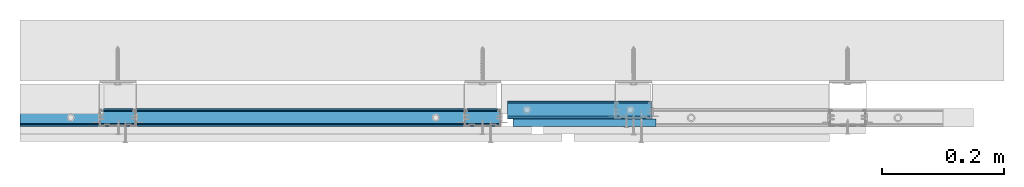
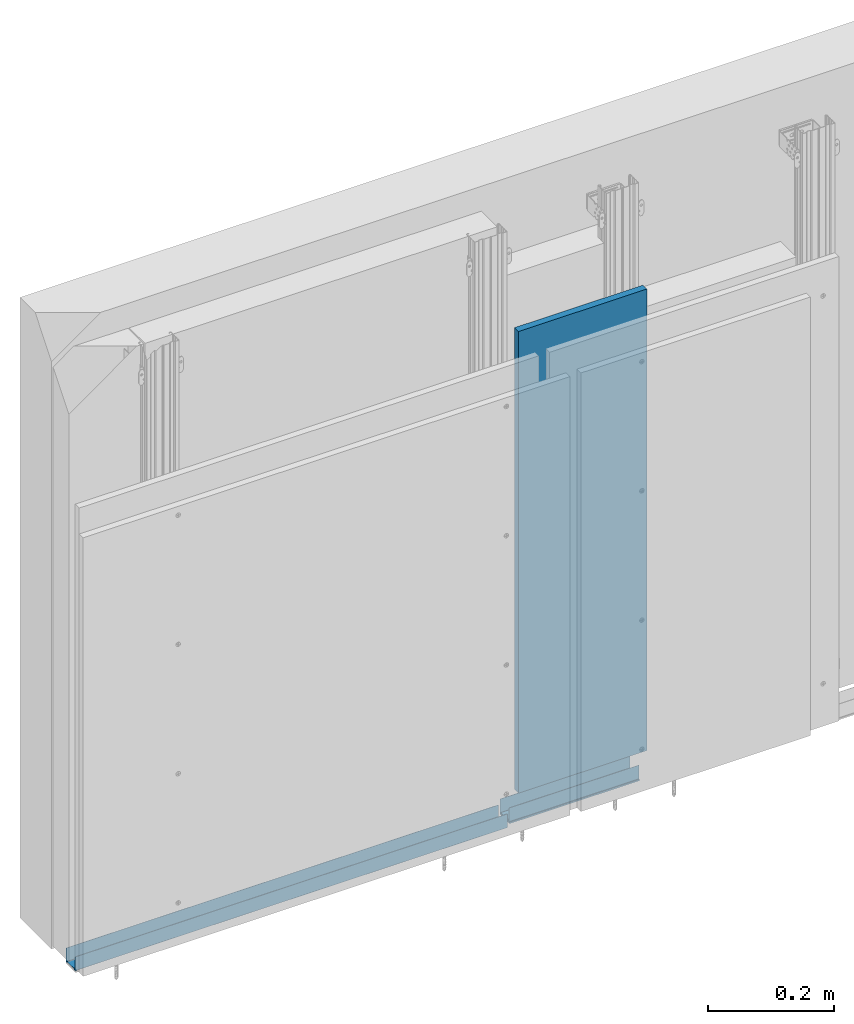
# One storey, part 4 of 48: 4 walls.
"""IFC2X3 building model written with IfcOpenShell, lengths in millimetres."""

from ifc_helpers import new_model, entity, si_unit, converted_unit, direction, frame, origin, origin_with_axes, place, context, project, spatial, faceted_brep, element, save


model = new_model("IFC2X3")

# Units and contexts
model_context = context("Model", 3, precision=1e-05, world=origin(), true_north=direction((0.0, 1.0, 0.0)))
ifc_project = project(units=[si_unit("LENGTHUNIT", "METRE", prefix="MILLI"), si_unit("AREAUNIT", "SQUARE_METRE"), si_unit("VOLUMEUNIT", "CUBIC_METRE"), converted_unit("PLANEANGLEUNIT", "DEGREE", entity("IfcPlaneAngleMeasure", 0.01745), si_unit("PLANEANGLEUNIT", "RADIAN"), dimensions=[0, 0, 0, 0, 0, 0, 0]), si_unit("SOLIDANGLEUNIT", "STERADIAN"), si_unit("MASSUNIT", "GRAM"), si_unit("TIMEUNIT", "SECOND"), si_unit("THERMODYNAMICTEMPERATUREUNIT", "DEGREE_CELSIUS"), si_unit("LUMINOUSINTENSITYUNIT", "LUMEN")], contexts=[model_context])

# Site, building, storey
site_placement = place(None, origin_with_axes())
site = spatial("IfcSite", under=ifc_project, at=site_placement, Name="Default Site", CompositionType="ELEMENT")
building_placement = place(site_placement, origin_with_axes())
building = spatial("IfcBuilding", under=site, at=building_placement, Name="Default Building", CompositionType="ELEMENT")
storey_placement = place(building_placement, origin_with_axes())
storey = spatial("IfcBuildingStorey", under=building, at=storey_placement, Name="Default Building Storey", CompositionType="ELEMENT", Elevation=0.0)

# Walls
wall_1_placement = place(storey_placement, frame((2393.64279698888, 1959.666056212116, 1059.999999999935), z_axis=(0.0, 0.0, 1.0), x_axis=(1.0, 6.389333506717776e-13, 0.0)))
element("IfcWall", 1, at=wall_1_placement, inside=storey, Name="Płyta gipsowo-kartonowa RIGIPS PRO (4PRO™)", context=model_context, shape_type="Brep", body=[
    faceted_brep([(542.2967056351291, 4.071580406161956e-10, -101.6096039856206), (542.2967056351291, -12.49999999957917, -101.6096039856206), (542.2967056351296, -12.49999999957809, -994.6141905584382), (542.2967056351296, 4.08240907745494e-10, -994.6141905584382), (777.2895112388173, -12.49999999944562, -101.6096039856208), (777.2895112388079, 5.26634380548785e-10, -101.6096039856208), (777.2895112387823, 5.244686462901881e-10, -994.6141905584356), (777.2895112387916, -12.49999999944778, -994.6141905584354)], [[[0, 1, 2, 3]], [[4, 5, 6, 7]], [[4, 1, 0, 5]], [[7, 2, 1, 4]], [[0, 3, 6, 5]], [[6, 3, 2, 7]]]),
])
wall_2_placement = place(storey_placement, frame((5932.525710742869, 3458.316404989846, -108.592020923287), z_axis=(-6.754789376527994e-14, -6.858158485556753e-13, 1.0), x_axis=(-1.0, -1.816065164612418e-15, -8.596431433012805e-14)))
element("IfcWall", 2, at=wall_2_placement, inside=storey, Name="Profil RIGIPS UD30 ULTRASTIL®", context=model_context, shape_type="Brep", body=[
    faceted_brep([(3006.162121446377, 1469.916032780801, 140.9749999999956), (3006.162121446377, 1469.366032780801, 140.9749999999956), (3006.162121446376, 1469.366032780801, 114.7749999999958), (3006.162121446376, 1469.375882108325, 114.6498524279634), (3006.162121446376, 1469.405187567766, 114.5277864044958), (3006.162121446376, 1469.453227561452, 114.4118076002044), (3006.162121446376, 1469.518819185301, 114.3047717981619), (3006.162121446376, 1469.600347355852, 114.2093145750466), (3006.162121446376, 1469.695804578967, 114.1277864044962), (3006.162121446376, 1469.80284038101, 114.0621947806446), (3006.162121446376, 1469.918819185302, 114.0141547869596), (3006.162121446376, 1470.04088520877, 113.9848493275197), (3006.162121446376, 1470.166032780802, 113.9749999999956), (3006.162121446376, 1472.016032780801, 113.9749999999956), (3006.162121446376, 1472.163550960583, 113.9887186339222), (3006.162121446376, 1472.3060097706, 114.0294040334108), (3006.162121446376, 1472.438523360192, 114.0956608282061), (3006.162121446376, 1472.55654696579, 114.1852166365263), (3006.162121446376, 1472.6560327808, 114.2949999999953), (3006.162121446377, 1473.676032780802, 115.6549999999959), (3006.162121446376, 1473.775518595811, 115.7647833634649), (3006.162121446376, 1473.893542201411, 115.8543391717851), (3006.162121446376, 1474.026055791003, 115.9205959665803), (3006.162121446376, 1474.16851460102, 115.961281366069), (3006.162121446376, 1474.316032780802, 115.9749999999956), (3006.162121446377, 1493.616032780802, 115.9749999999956), (3006.162121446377, 1493.763550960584, 115.961281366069), (3006.162121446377, 1493.906009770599, 115.9205959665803), (3006.162121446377, 1494.03852336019, 115.8543391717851), (3006.162121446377, 1494.15654696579, 115.7647833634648), (3006.162121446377, 1494.256032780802, 115.6549999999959), (3006.162121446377, 1495.276032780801, 114.2949999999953), (3006.162121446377, 1495.375518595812, 114.1852166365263), (3006.162121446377, 1495.493542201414, 114.0956608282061), (3006.162121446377, 1495.626055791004, 114.0294040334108), (3006.162121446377, 1495.76851460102, 113.9887186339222), (3006.162121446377, 1495.916032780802, 113.9749999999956), (3006.162121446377, 1497.766032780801, 113.9749999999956), (3006.162121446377, 1497.891180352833, 113.9848493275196), (3006.162121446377, 1498.013246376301, 114.0141547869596), (3006.162121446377, 1498.129225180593, 114.0621947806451), (3006.162121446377, 1498.236260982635, 114.1277864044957), (3006.162121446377, 1498.33171820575, 114.2093145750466), (3006.162121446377, 1498.413246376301, 114.304771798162), (3006.162121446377, 1498.478838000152, 114.411807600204), (3006.162121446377, 1498.526877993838, 114.5277864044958), (3006.162121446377, 1498.556183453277, 114.6498524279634), (3006.162121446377, 1498.566032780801, 114.7749999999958), (3006.162121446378, 1498.566032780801, 140.9749999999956), (3006.162121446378, 1498.0160327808, 140.9749999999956), (3006.162121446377, 1498.0160327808, 114.7749999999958), (3006.162121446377, 1498.012954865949, 114.7358913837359), (3006.162121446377, 1498.003796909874, 114.697745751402), (3006.162121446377, 1497.988784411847, 114.6615023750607), (3006.162121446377, 1497.968287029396, 114.6280536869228), (3006.162121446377, 1497.942809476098, 114.5982233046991), (3006.162121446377, 1497.912979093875, 114.5727457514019), (3006.162121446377, 1497.879530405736, 114.5522483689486), (3006.162121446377, 1497.843287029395, 114.5372358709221), (3006.162121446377, 1497.805141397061, 114.5280779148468), (3006.162121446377, 1497.766032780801, 114.5249999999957), (3006.162121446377, 1495.916032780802, 114.5249999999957), (3006.162121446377, 1495.86993334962, 114.529287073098), (3006.162121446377, 1495.82541497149, 114.5420012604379), (3006.162121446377, 1495.784004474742, 114.5627065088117), (3006.162121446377, 1495.747122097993, 114.5906926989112), (3006.162121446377, 1495.716032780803, 114.6249999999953), (3006.162121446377, 1494.696032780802, 115.9849999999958), (3006.162121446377, 1494.528150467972, 116.1702594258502), (3006.162121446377, 1494.32898563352, 116.3213848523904), (3006.162121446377, 1494.105368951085, 116.4331931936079), (3006.162121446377, 1493.864969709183, 116.5018498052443), (3006.162121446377, 1493.616032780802, 116.5249999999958), (3006.162121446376, 1474.316032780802, 116.5249999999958), (3006.162121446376, 1474.067095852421, 116.5018498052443), (3006.162121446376, 1473.826696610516, 116.4331931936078), (3006.162121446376, 1473.603079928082, 116.3213848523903), (3006.162121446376, 1473.403915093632, 116.1702594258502), (3006.162121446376, 1473.236032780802, 115.9849999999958), (3006.162121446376, 1472.216032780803, 114.6249999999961), (3006.162121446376, 1472.184943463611, 114.5906926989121), (3006.162121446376, 1472.14806108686, 114.5627065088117), (3006.162121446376, 1472.106650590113, 114.5420012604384), (3006.162121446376, 1472.062132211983, 114.529287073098), (3006.162121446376, 1472.016032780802, 114.5249999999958), (3006.162121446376, 1470.166032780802, 114.5249999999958), (3006.162121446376, 1470.126924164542, 114.5280779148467), (3006.162121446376, 1470.088778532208, 114.5372358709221), (3006.162121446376, 1470.052535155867, 114.5522483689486), (3006.162121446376, 1470.019086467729, 114.572745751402), (3006.162121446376, 1469.989256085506, 114.5982233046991), (3006.162121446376, 1469.963778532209, 114.6280536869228), (3006.162121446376, 1469.943281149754, 114.6615023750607), (3006.162121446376, 1469.928268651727, 114.697745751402), (3006.162121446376, 1469.919110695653, 114.7358913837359), (3006.162121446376, 1469.916032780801, 114.7749999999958), (2768.501210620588, 1469.366032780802, 114.7750000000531), (2768.501210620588, 1469.366032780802, 140.9750000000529), (2768.501210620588, 1469.916032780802, 140.9750000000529), (2768.501210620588, 1469.916032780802, 114.775000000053), (2768.501210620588, 1469.919110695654, 114.7358913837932), (2768.501210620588, 1469.928268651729, 114.6977457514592), (2768.501210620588, 1469.943281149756, 114.661502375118), (2768.501210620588, 1469.963778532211, 114.6280536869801), (2768.501210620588, 1469.989256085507, 114.5982233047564), (2768.501210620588, 1470.01908646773, 114.5727457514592), (2768.501210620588, 1470.052535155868, 114.5522483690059), (2768.501210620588, 1470.08877853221, 114.5372358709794), (2768.501210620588, 1470.126924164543, 114.5280779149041), (2768.501210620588, 1470.166032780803, 114.525000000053), (2768.501210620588, 1472.016032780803, 114.5250000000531), (2768.501210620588, 1472.062132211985, 114.5292870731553), (2768.501210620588, 1472.106650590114, 114.5420012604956), (2768.501210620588, 1472.148061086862, 114.562706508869), (2768.501210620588, 1472.184943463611, 114.5906926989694), (2768.501210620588, 1472.216032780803, 114.6250000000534), (2768.501210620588, 1473.236032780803, 115.9850000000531), (2768.501210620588, 1473.403915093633, 116.1702594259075), (2768.501210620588, 1473.603079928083, 116.3213848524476), (2768.501210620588, 1473.826696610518, 116.4331931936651), (2768.501210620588, 1474.067095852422, 116.5018498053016), (2768.501210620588, 1474.316032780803, 116.525000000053), (2768.501210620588, 1493.616032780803, 116.525000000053), (2768.501210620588, 1493.864969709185, 116.5018498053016), (2768.501210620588, 1494.105368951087, 116.4331931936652), (2768.501210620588, 1494.328985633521, 116.3213848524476), (2768.501210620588, 1494.528150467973, 116.1702594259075), (2768.501210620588, 1494.696032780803, 115.9850000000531), (2768.501210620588, 1495.716032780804, 114.6250000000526), (2768.501210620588, 1495.747122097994, 114.5906926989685), (2768.501210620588, 1495.784004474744, 114.562706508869), (2768.501210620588, 1495.825414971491, 114.5420012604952), (2768.501210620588, 1495.869933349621, 114.5292870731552), (2768.501210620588, 1495.916032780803, 114.5250000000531), (2768.501210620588, 1497.766032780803, 114.5250000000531), (2768.501210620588, 1497.805141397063, 114.5280779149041), (2768.501210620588, 1497.843287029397, 114.5372358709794), (2768.501210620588, 1497.879530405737, 114.5522483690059), (2768.501210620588, 1497.912979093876, 114.5727457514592), (2768.501210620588, 1497.942809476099, 114.5982233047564), (2768.501210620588, 1497.968287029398, 114.6280536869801), (2768.501210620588, 1497.988784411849, 114.661502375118), (2768.501210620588, 1498.003796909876, 114.6977457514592), (2768.501210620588, 1498.012954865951, 114.7358913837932), (2768.501210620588, 1498.016032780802, 114.7750000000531), (2768.501210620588, 1498.016032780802, 140.9750000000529), (2768.501210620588, 1498.566032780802, 140.9750000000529), (2768.501210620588, 1498.566032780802, 114.775000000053), (2768.501210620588, 1498.556183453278, 114.6498524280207), (2768.501210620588, 1498.526877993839, 114.5277864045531), (2768.501210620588, 1498.478838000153, 114.4118076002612), (2768.501210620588, 1498.413246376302, 114.3047717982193), (2768.501210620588, 1498.331718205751, 114.2093145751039), (2768.501210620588, 1498.236260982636, 114.127786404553), (2768.501210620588, 1498.129225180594, 114.0621947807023), (2768.501210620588, 1498.013246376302, 114.0141547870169), (2768.501210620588, 1497.891180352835, 113.984849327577), (2768.501210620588, 1497.766032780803, 113.9750000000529), (2768.501210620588, 1495.916032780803, 113.9750000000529), (2768.501210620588, 1495.768514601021, 113.9887186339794), (2768.501210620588, 1495.626055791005, 114.0294040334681), (2768.501210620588, 1495.493542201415, 114.0956608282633), (2768.501210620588, 1495.375518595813, 114.1852166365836), (2768.501210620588, 1495.276032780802, 114.2950000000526), (2768.501210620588, 1494.256032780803, 115.6550000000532), (2768.501210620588, 1494.156546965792, 115.7647833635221), (2768.501210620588, 1494.038523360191, 115.8543391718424), (2768.501210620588, 1493.9060097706, 115.9205959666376), (2768.501210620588, 1493.763550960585, 115.9612813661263), (2768.501210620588, 1493.616032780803, 115.9750000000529), (2768.501210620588, 1474.316032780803, 115.9750000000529), (2768.501210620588, 1474.168514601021, 115.9612813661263), (2768.501210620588, 1474.026055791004, 115.9205959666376), (2768.501210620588, 1473.893542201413, 115.8543391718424), (2768.501210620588, 1473.775518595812, 115.7647833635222), (2768.501210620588, 1473.676032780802, 115.6550000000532), (2768.501210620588, 1472.656032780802, 114.2950000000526), (2768.501210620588, 1472.556546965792, 114.1852166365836), (2768.501210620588, 1472.438523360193, 114.0956608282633), (2768.501210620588, 1472.306009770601, 114.0294040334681), (2768.501210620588, 1472.163550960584, 113.9887186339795), (2768.501210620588, 1472.016032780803, 113.9750000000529), (2768.501210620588, 1470.166032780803, 113.9750000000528), (2768.501210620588, 1470.040885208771, 113.9848493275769), (2768.501210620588, 1469.918819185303, 114.0141547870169), (2768.501210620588, 1469.802840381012, 114.0621947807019), (2768.501210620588, 1469.695804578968, 114.1277864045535), (2768.501210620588, 1469.600347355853, 114.2093145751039), (2768.501210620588, 1469.518819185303, 114.3047717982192), (2768.501210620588, 1469.453227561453, 114.4118076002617), (2768.501210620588, 1469.405187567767, 114.5277864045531), (2768.501210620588, 1469.375882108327, 114.6498524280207)], [[[0, 1, 2, 3, 4, 5, 6, 7, 8, 9, 10, 11, 12, 13, 14, 15, 16, 17, 18, 19, 20, 21, 22, 23, 24, 25, 26, 27, 28, 29, 30, 31, 32, 33, 34, 35, 36, 37, 38, 39, 40, 41, 42, 43, 44, 45, 46, 47, 48, 49, 50, 51, 52, 53, 54, 55, 56, 57, 58, 59, 60, 61, 62, 63, 64, 65, 66, 67, 68, 69, 70, 71, 72, 73, 74, 75, 76, 77, 78, 79, 80, 81, 82, 83, 84, 85, 86, 87, 88, 89, 90, 91, 92, 93, 94, 95]], [[96, 97, 98, 99, 100, 101, 102, 103, 104, 105, 106, 107, 108, 109, 110, 111, 112, 113, 114, 115, 116, 117, 118, 119, 120, 121, 122, 123, 124, 125, 126, 127, 128, 129, 130, 131, 132, 133, 134, 135, 136, 137, 138, 139, 140, 141, 142, 143, 144, 145, 146, 147, 148, 149, 150, 151, 152, 153, 154, 155, 156, 157, 158, 159, 160, 161, 162, 163, 164, 165, 166, 167, 168, 169, 170, 171, 172, 173, 174, 175, 176, 177, 178, 179, 180, 181, 182, 183, 184, 185, 186, 187, 188, 189, 190, 191]], [[23, 171, 170, 24]], [[22, 172, 171, 23]], [[175, 174, 20, 19]], [[172, 22, 21, 173]], [[20, 174, 173, 21]], [[24, 170, 169, 25]], [[29, 165, 164, 30]], [[165, 29, 28, 166]], [[27, 167, 166, 28]], [[169, 168, 26, 25]], [[26, 168, 167, 27]], [[30, 164, 163, 31]], [[35, 159, 158, 36]], [[34, 160, 159, 35]], [[33, 32, 162, 161]], [[161, 160, 34, 33]], [[163, 162, 32, 31]], [[36, 158, 157, 37]], [[46, 45, 149, 148]], [[148, 147, 47, 46]], [[44, 150, 149, 45]], [[43, 42, 152, 151]], [[151, 150, 44, 43]], [[41, 40, 154, 153]], [[153, 152, 42, 41]], [[39, 155, 154, 40]], [[38, 37, 157, 156]], [[156, 155, 39, 38]], [[47, 147, 146, 48]], [[48, 146, 145, 49]], [[49, 145, 144, 50]], [[134, 60, 59, 135]], [[58, 136, 135, 59]], [[57, 137, 136, 58]], [[137, 57, 56, 138]], [[55, 139, 138, 56]], [[139, 55, 54, 140]], [[53, 141, 140, 54]], [[52, 142, 141, 53]], [[142, 52, 51, 143]], [[50, 144, 143, 51]], [[60, 134, 133, 61]], [[65, 129, 128, 66]], [[129, 65, 64, 130]], [[63, 131, 130, 64]], [[133, 132, 62, 61]], [[62, 132, 131, 63]], [[66, 128, 127, 67]], [[71, 123, 122, 72]], [[70, 69, 125, 124]], [[124, 123, 71, 70]], [[68, 126, 125, 69]], [[127, 126, 68, 67]], [[72, 122, 121, 73]], [[77, 117, 116, 78]], [[76, 118, 117, 77]], [[75, 74, 120, 119]], [[119, 118, 76, 75]], [[121, 120, 74, 73]], [[78, 116, 115, 79]], [[83, 111, 110, 84]], [[82, 112, 111, 83]], [[115, 114, 80, 79]], [[112, 82, 81, 113]], [[80, 114, 113, 81]], [[84, 110, 109, 85]], [[99, 95, 94, 100]], [[93, 101, 100, 94]], [[92, 102, 101, 93]], [[102, 92, 91, 103]], [[90, 104, 103, 91]], [[104, 90, 89, 105]], [[88, 106, 105, 89]], [[87, 107, 106, 88]], [[107, 87, 86, 108]], [[85, 109, 108, 86]], [[95, 99, 98, 0]], [[0, 98, 97, 1]], [[1, 97, 96, 2]], [[11, 10, 184, 183]], [[183, 182, 12, 11]], [[9, 185, 184, 10]], [[6, 5, 189, 188]], [[7, 6, 188, 187]], [[8, 7, 187, 186]], [[186, 185, 9, 8]], [[4, 190, 189, 5]], [[3, 2, 96, 191]], [[191, 190, 4, 3]], [[12, 182, 181, 13]], [[17, 177, 176, 18]], [[16, 15, 179, 178]], [[178, 177, 17, 16]], [[14, 180, 179, 15]], [[181, 180, 14, 13]], [[18, 176, 175, 19]]]),
])
wall_3_placement = place(storey_placement, frame((5684.39176976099, 3445.732088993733, -108.5920209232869), z_axis=(-6.754789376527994e-14, -6.858158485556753e-13, 1.0), x_axis=(-1.0, -1.816065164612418e-15, -8.596431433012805e-14)))
element("IfcWall", 3, at=wall_3_placement, inside=storey, Name="Profil RIGIPS UD30 ULTRASTIL®", context=model_context, shape_type="Brep", body=[
    faceted_brep([(3559.3666362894, 1469.9160327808, 140.9750000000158), (3559.3666362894, 1469.3660327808, 140.9750000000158), (3559.366636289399, 1469.3660327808, 114.775000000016), (3559.366636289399, 1469.375882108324, 114.6498524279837), (3559.366636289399, 1469.405187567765, 114.5277864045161), (3559.366636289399, 1469.453227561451, 114.4118076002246), (3559.366636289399, 1469.5188191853, 114.3047717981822), (3559.366636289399, 1469.600347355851, 114.2093145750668), (3559.366636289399, 1469.695804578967, 114.1277864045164), (3559.366636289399, 1469.802840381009, 114.0621947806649), (3559.366636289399, 1469.918819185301, 114.0141547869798), (3559.366636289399, 1470.040885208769, 113.9848493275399), (3559.366636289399, 1470.166032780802, 113.9750000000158), (3559.366636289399, 1472.016032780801, 113.9750000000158), (3559.366636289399, 1472.163550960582, 113.9887186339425), (3559.366636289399, 1472.306009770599, 114.0294040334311), (3559.366636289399, 1472.438523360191, 114.0956608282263), (3559.366636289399, 1472.55654696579, 114.1852166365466), (3559.366636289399, 1472.6560327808, 114.2950000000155), (3559.3666362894, 1473.676032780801, 115.6550000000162), (3559.366636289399, 1473.77551859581, 115.7647833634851), (3559.366636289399, 1473.893542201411, 115.8543391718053), (3559.366636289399, 1474.026055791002, 115.9205959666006), (3559.366636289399, 1474.16851460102, 115.9612813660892), (3559.366636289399, 1474.316032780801, 115.9750000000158), (3559.3666362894, 1493.616032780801, 115.9750000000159), (3559.3666362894, 1493.763550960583, 115.9612813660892), (3559.3666362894, 1493.906009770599, 115.9205959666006), (3559.3666362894, 1494.038523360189, 115.8543391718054), (3559.3666362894, 1494.156546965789, 115.7647833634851), (3559.3666362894, 1494.256032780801, 115.6550000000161), (3559.366636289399, 1495.2760327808, 114.2950000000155), (3559.366636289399, 1495.375518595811, 114.1852166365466), (3559.366636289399, 1495.493542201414, 114.0956608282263), (3559.366636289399, 1495.626055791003, 114.0294040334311), (3559.366636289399, 1495.76851460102, 113.9887186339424), (3559.366636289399, 1495.916032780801, 113.9750000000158), (3559.366636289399, 1497.766032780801, 113.9750000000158), (3559.366636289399, 1497.891180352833, 113.9848493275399), (3559.366636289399, 1498.013246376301, 114.0141547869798), (3559.366636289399, 1498.129225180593, 114.0621947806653), (3559.366636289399, 1498.236260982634, 114.127786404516), (3559.366636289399, 1498.331718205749, 114.2093145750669), (3559.366636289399, 1498.4132463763, 114.3047717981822), (3559.366636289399, 1498.478838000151, 114.4118076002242), (3559.366636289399, 1498.526877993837, 114.5277864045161), (3559.366636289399, 1498.556183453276, 114.6498524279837), (3559.366636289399, 1498.5660327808, 114.775000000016), (3559.366636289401, 1498.5660327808, 140.9750000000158), (3559.366636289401, 1498.0160327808, 140.9750000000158), (3559.366636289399, 1498.0160327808, 114.775000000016), (3559.366636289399, 1498.012954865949, 114.7358913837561), (3559.366636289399, 1498.003796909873, 114.6977457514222), (3559.366636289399, 1497.988784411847, 114.661502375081), (3559.366636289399, 1497.968287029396, 114.6280536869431), (3559.366636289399, 1497.942809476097, 114.5982233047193), (3559.366636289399, 1497.912979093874, 114.5727457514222), (3559.366636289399, 1497.879530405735, 114.5522483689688), (3559.366636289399, 1497.843287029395, 114.5372358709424), (3559.366636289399, 1497.805141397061, 114.528077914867), (3559.366636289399, 1497.766032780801, 114.525000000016), (3559.366636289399, 1495.916032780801, 114.525000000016), (3559.366636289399, 1495.869933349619, 114.5292870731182), (3559.366636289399, 1495.825414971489, 114.5420012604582), (3559.366636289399, 1495.784004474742, 114.5627065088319), (3559.366636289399, 1495.747122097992, 114.5906926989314), (3559.366636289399, 1495.716032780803, 114.6250000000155), (3559.3666362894, 1494.696032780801, 115.9850000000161), (3559.3666362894, 1494.528150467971, 116.1702594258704), (3559.3666362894, 1494.32898563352, 116.3213848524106), (3559.3666362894, 1494.105368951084, 116.4331931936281), (3559.3666362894, 1493.864969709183, 116.5018498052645), (3559.3666362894, 1493.616032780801, 116.525000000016), (3559.366636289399, 1474.316032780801, 116.525000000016), (3559.366636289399, 1474.06709585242, 116.5018498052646), (3559.366636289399, 1473.826696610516, 116.4331931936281), (3559.366636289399, 1473.603079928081, 116.3213848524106), (3559.366636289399, 1473.403915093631, 116.1702594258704), (3559.366636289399, 1473.236032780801, 115.9850000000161), (3559.366636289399, 1472.216032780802, 114.6250000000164), (3559.366636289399, 1472.18494346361, 114.5906926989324), (3559.366636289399, 1472.14806108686, 114.562706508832), (3559.366636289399, 1472.106650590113, 114.5420012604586), (3559.366636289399, 1472.062132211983, 114.5292870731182), (3559.366636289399, 1472.016032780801, 114.525000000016), (3559.366636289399, 1470.166032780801, 114.525000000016), (3559.366636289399, 1470.126924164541, 114.528077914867), (3559.366636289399, 1470.088778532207, 114.5372358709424), (3559.366636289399, 1470.052535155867, 114.5522483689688), (3559.366636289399, 1470.019086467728, 114.5727457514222), (3559.366636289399, 1469.989256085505, 114.5982233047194), (3559.366636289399, 1469.963778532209, 114.628053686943), (3559.366636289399, 1469.943281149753, 114.661502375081), (3559.366636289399, 1469.928268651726, 114.6977457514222), (3559.366636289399, 1469.919110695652, 114.7358913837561), (3559.366636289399, 1469.9160327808, 114.775000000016), (2768.501210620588, 1469.366032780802, 114.7750000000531), (2768.501210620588, 1469.366032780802, 140.9750000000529), (2768.501210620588, 1469.916032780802, 140.9750000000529), (2768.501210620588, 1469.916032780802, 114.775000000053), (2768.501210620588, 1469.919110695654, 114.7358913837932), (2768.501210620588, 1469.928268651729, 114.6977457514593), (2768.501210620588, 1469.943281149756, 114.661502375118), (2768.501210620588, 1469.963778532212, 114.6280536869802), (2768.501210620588, 1469.989256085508, 114.5982233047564), (2768.501210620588, 1470.019086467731, 114.5727457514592), (2768.501210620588, 1470.052535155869, 114.5522483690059), (2768.501210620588, 1470.08877853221, 114.5372358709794), (2768.501210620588, 1470.126924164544, 114.5280779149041), (2768.501210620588, 1470.166032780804, 114.5250000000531), (2768.501210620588, 1472.016032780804, 114.5250000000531), (2768.501210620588, 1472.062132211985, 114.5292870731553), (2768.501210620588, 1472.106650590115, 114.5420012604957), (2768.501210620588, 1472.148061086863, 114.562706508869), (2768.501210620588, 1472.184943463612, 114.5906926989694), (2768.501210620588, 1472.216032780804, 114.6250000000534), (2768.501210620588, 1473.236032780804, 115.9850000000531), (2768.501210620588, 1473.403915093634, 116.1702594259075), (2768.501210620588, 1473.603079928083, 116.3213848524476), (2768.501210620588, 1473.826696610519, 116.4331931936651), (2768.501210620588, 1474.067095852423, 116.5018498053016), (2768.501210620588, 1474.316032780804, 116.525000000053), (2768.501210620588, 1493.616032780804, 116.5250000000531), (2768.501210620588, 1493.864969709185, 116.5018498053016), (2768.501210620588, 1494.105368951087, 116.4331931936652), (2768.501210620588, 1494.328985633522, 116.3213848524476), (2768.501210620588, 1494.528150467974, 116.1702594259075), (2768.501210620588, 1494.696032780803, 115.9850000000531), (2768.501210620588, 1495.716032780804, 114.6250000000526), (2768.501210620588, 1495.747122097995, 114.5906926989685), (2768.501210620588, 1495.784004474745, 114.562706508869), (2768.501210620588, 1495.825414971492, 114.5420012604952), (2768.501210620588, 1495.869933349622, 114.5292870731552), (2768.501210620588, 1495.916032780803, 114.5250000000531), (2768.501210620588, 1497.766032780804, 114.5250000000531), (2768.501210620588, 1497.805141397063, 114.5280779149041), (2768.501210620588, 1497.843287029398, 114.5372358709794), (2768.501210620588, 1497.879530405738, 114.5522483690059), (2768.501210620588, 1497.912979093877, 114.5727457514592), (2768.501210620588, 1497.9428094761, 114.5982233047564), (2768.501210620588, 1497.968287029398, 114.6280536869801), (2768.501210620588, 1497.98878441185, 114.6615023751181), (2768.501210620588, 1498.003796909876, 114.6977457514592), (2768.501210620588, 1498.012954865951, 114.7358913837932), (2768.501210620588, 1498.016032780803, 114.7750000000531), (2768.501210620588, 1498.016032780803, 140.9750000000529), (2768.501210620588, 1498.566032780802, 140.9750000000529), (2768.501210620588, 1498.566032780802, 114.775000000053), (2768.501210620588, 1498.556183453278, 114.6498524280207), (2768.501210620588, 1498.52687799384, 114.5277864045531), (2768.501210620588, 1498.478838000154, 114.4118076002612), (2768.501210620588, 1498.413246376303, 114.3047717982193), (2768.501210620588, 1498.331718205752, 114.2093145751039), (2768.501210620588, 1498.236260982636, 114.127786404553), (2768.501210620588, 1498.129225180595, 114.0621947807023), (2768.501210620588, 1498.013246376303, 114.0141547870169), (2768.501210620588, 1497.891180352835, 113.984849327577), (2768.501210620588, 1497.766032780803, 113.9750000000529), (2768.501210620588, 1495.916032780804, 113.9750000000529), (2768.501210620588, 1495.768514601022, 113.9887186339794), (2768.501210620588, 1495.626055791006, 114.0294040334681), (2768.501210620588, 1495.493542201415, 114.0956608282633), (2768.501210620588, 1495.375518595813, 114.1852166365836), (2768.501210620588, 1495.276032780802, 114.2950000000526), (2768.501210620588, 1494.256032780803, 115.6550000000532), (2768.501210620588, 1494.156546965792, 115.7647833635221), (2768.501210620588, 1494.038523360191, 115.8543391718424), (2768.501210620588, 1493.906009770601, 115.9205959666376), (2768.501210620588, 1493.763550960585, 115.9612813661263), (2768.501210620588, 1493.616032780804, 115.9750000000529), (2768.501210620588, 1474.316032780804, 115.9750000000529), (2768.501210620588, 1474.168514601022, 115.9612813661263), (2768.501210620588, 1474.026055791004, 115.9205959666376), (2768.501210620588, 1473.893542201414, 115.8543391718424), (2768.501210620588, 1473.775518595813, 115.7647833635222), (2768.501210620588, 1473.676032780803, 115.6550000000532), (2768.501210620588, 1472.656032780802, 114.2950000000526), (2768.501210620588, 1472.556546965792, 114.1852166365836), (2768.501210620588, 1472.438523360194, 114.0956608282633), (2768.501210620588, 1472.306009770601, 114.0294040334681), (2768.501210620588, 1472.163550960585, 113.9887186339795), (2768.501210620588, 1472.016032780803, 113.9750000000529), (2768.501210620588, 1470.166032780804, 113.9750000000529), (2768.501210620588, 1470.040885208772, 113.9848493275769), (2768.501210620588, 1469.918819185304, 114.0141547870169), (2768.501210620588, 1469.802840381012, 114.0621947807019), (2768.501210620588, 1469.695804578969, 114.1277864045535), (2768.501210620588, 1469.600347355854, 114.2093145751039), (2768.501210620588, 1469.518819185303, 114.3047717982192), (2768.501210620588, 1469.453227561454, 114.4118076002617), (2768.501210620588, 1469.405187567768, 114.5277864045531), (2768.501210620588, 1469.375882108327, 114.6498524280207)], [[[0, 1, 2, 3, 4, 5, 6, 7, 8, 9, 10, 11, 12, 13, 14, 15, 16, 17, 18, 19, 20, 21, 22, 23, 24, 25, 26, 27, 28, 29, 30, 31, 32, 33, 34, 35, 36, 37, 38, 39, 40, 41, 42, 43, 44, 45, 46, 47, 48, 49, 50, 51, 52, 53, 54, 55, 56, 57, 58, 59, 60, 61, 62, 63, 64, 65, 66, 67, 68, 69, 70, 71, 72, 73, 74, 75, 76, 77, 78, 79, 80, 81, 82, 83, 84, 85, 86, 87, 88, 89, 90, 91, 92, 93, 94, 95]], [[96, 97, 98, 99, 100, 101, 102, 103, 104, 105, 106, 107, 108, 109, 110, 111, 112, 113, 114, 115, 116, 117, 118, 119, 120, 121, 122, 123, 124, 125, 126, 127, 128, 129, 130, 131, 132, 133, 134, 135, 136, 137, 138, 139, 140, 141, 142, 143, 144, 145, 146, 147, 148, 149, 150, 151, 152, 153, 154, 155, 156, 157, 158, 159, 160, 161, 162, 163, 164, 165, 166, 167, 168, 169, 170, 171, 172, 173, 174, 175, 176, 177, 178, 179, 180, 181, 182, 183, 184, 185, 186, 187, 188, 189, 190, 191]], [[23, 171, 170, 24]], [[22, 172, 171, 23]], [[175, 174, 20, 19]], [[172, 22, 21, 173]], [[20, 174, 173, 21]], [[24, 170, 169, 25]], [[29, 165, 164, 30]], [[165, 29, 28, 166]], [[27, 167, 166, 28]], [[169, 168, 26, 25]], [[26, 168, 167, 27]], [[30, 164, 163, 31]], [[35, 159, 158, 36]], [[34, 160, 159, 35]], [[33, 32, 162, 161]], [[161, 160, 34, 33]], [[163, 162, 32, 31]], [[36, 158, 157, 37]], [[46, 45, 149, 148]], [[148, 147, 47, 46]], [[44, 150, 149, 45]], [[43, 42, 152, 151]], [[151, 150, 44, 43]], [[41, 40, 154, 153]], [[153, 152, 42, 41]], [[39, 155, 154, 40]], [[38, 37, 157, 156]], [[156, 155, 39, 38]], [[47, 147, 146, 48]], [[48, 146, 145, 49]], [[49, 145, 144, 50]], [[134, 60, 59, 135]], [[58, 136, 135, 59]], [[57, 137, 136, 58]], [[137, 57, 56, 138]], [[55, 139, 138, 56]], [[139, 55, 54, 140]], [[53, 141, 140, 54]], [[52, 142, 141, 53]], [[142, 52, 51, 143]], [[50, 144, 143, 51]], [[60, 134, 133, 61]], [[65, 129, 128, 66]], [[129, 65, 64, 130]], [[63, 131, 130, 64]], [[133, 132, 62, 61]], [[62, 132, 131, 63]], [[66, 128, 127, 67]], [[71, 123, 122, 72]], [[70, 69, 125, 124]], [[124, 123, 71, 70]], [[68, 126, 125, 69]], [[127, 126, 68, 67]], [[72, 122, 121, 73]], [[77, 117, 116, 78]], [[76, 118, 117, 77]], [[75, 74, 120, 119]], [[119, 118, 76, 75]], [[121, 120, 74, 73]], [[78, 116, 115, 79]], [[83, 111, 110, 84]], [[82, 112, 111, 83]], [[115, 114, 80, 79]], [[112, 82, 81, 113]], [[80, 114, 113, 81]], [[84, 110, 109, 85]], [[99, 95, 94, 100]], [[93, 101, 100, 94]], [[92, 102, 101, 93]], [[102, 92, 91, 103]], [[90, 104, 103, 91]], [[104, 90, 89, 105]], [[88, 106, 105, 89]], [[87, 107, 106, 88]], [[107, 87, 86, 108]], [[85, 109, 108, 86]], [[95, 99, 98, 0]], [[0, 98, 97, 1]], [[1, 97, 96, 2]], [[11, 10, 184, 183]], [[183, 182, 12, 11]], [[9, 185, 184, 10]], [[6, 5, 189, 188]], [[7, 6, 188, 187]], [[8, 7, 187, 186]], [[186, 185, 9, 8]], [[4, 190, 189, 5]], [[3, 2, 96, 191]], [[191, 190, 4, 3]], [[12, 182, 181, 13]], [[17, 177, 176, 18]], [[16, 15, 179, 178]], [[178, 177, 17, 16]], [[14, 180, 179, 15]], [[181, 180, 14, 13]], [[18, 176, 175, 19]]]),
])
wall_4_placement = place(storey_placement, frame((2626.338455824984, 2005.475238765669, 2.384025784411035), z_axis=(0.0, 0.0, 1.0), x_axis=(1.0, 0.0, 0.0)))
element("IfcWall", 4, at=wall_4_placement, inside=storey, Name="Taśma uszczelniająca piankowa RIGIPS", context=model_context, shape_type="Brep", body=[
    faceted_brep([(300.0251334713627, -46.50000002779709, 2.998418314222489), (537.686044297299, -46.50000002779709, 2.998418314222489), (537.686044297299, -16.52486655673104, 3.001783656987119), (300.0251334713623, -16.52486655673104, 3.001783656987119), (300.0251334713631, -46.50000002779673, -2.309905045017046e-12), (537.686044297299, -46.50000002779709, -2.309905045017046e-12), (300.0251334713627, -16.52486655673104, 0.001783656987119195), (537.686044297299, -16.52486655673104, 0.001783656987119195)], [[[0, 1, 2, 3]], [[1, 0, 4, 5]], [[5, 4, 6, 7]], [[3, 6, 4, 0]], [[7, 6, 3, 2]], [[2, 1, 5, 7]]]),
])

save(model, "model.ifc")
